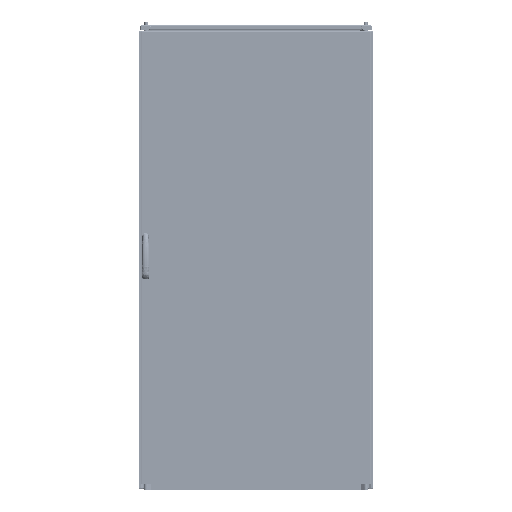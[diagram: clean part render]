
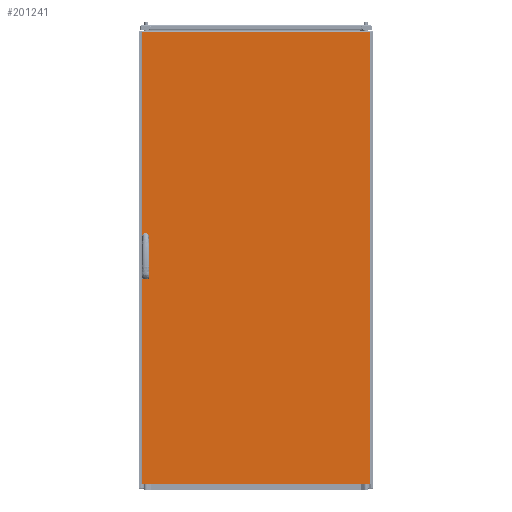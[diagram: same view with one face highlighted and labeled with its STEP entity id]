
A CAD part, top view. The second image highlights one B-rep face of the part: STEP entity #201241.
In plain terms, the highlighted planar face has unit normal (0, 0, 1).
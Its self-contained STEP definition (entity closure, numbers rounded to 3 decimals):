
#1612 = FACE_BOUND ( 'NONE', #200644, .T. ) ;
#4209 = CARTESIAN_POINT ( 'NONE',  ( 28.7, 947.75, 19. ) ) ;
#7296 = CARTESIAN_POINT ( 'NONE',  ( 9.7, 947.75, 19. ) ) ;
#11324 = EDGE_CURVE ( 'NONE', #109390, #80015, #261966, .T. ) ;
#13421 = EDGE_CURVE ( 'NONE', #243598, #170873, #272568, .T. ) ;
#20468 = ORIENTED_EDGE ( 'NONE', *, *, #289885, .F. ) ;
#23117 = LINE ( 'NONE', #149639, #42022 ) ;
#25180 = EDGE_LOOP ( 'NONE', ( #68979, #293675, #205023, #317691 ) ) ;
#25189 = CIRCLE ( 'NONE', #263102, 9.5 ) ;
#25877 = DIRECTION ( 'NONE',  ( 0., 0., -1. ) ) ;
#28552 = CIRCLE ( 'NONE', #327231, 9.5 ) ;
#35971 = VERTEX_POINT ( 'NONE', #72213 ) ;
#42022 = VECTOR ( 'NONE', #97668, 1000. ) ;
#59844 = VECTOR ( 'NONE', #126161, 1000. ) ;
#60789 = ORIENTED_EDGE ( 'NONE', *, *, #286555, .F. ) ;
#68979 = ORIENTED_EDGE ( 'NONE', *, *, #97079, .T. ) ;
#69067 = CARTESIAN_POINT ( 'NONE',  ( 0., 3., 19. ) ) ;
#71259 = DIRECTION ( 'NONE',  ( 0., 1., 0. ) ) ;
#72213 = CARTESIAN_POINT ( 'NONE',  ( 992., 1957., 19. ) ) ;
#76022 = VERTEX_POINT ( 'NONE', #150611 ) ;
#77213 = VERTEX_POINT ( 'NONE', #183626 ) ;
#78578 = EDGE_LOOP ( 'NONE', ( #271475, #295813, #20468, #80836 ) ) ;
#80015 = VERTEX_POINT ( 'NONE', #193172 ) ;
#80836 = ORIENTED_EDGE ( 'NONE', *, *, #252036, .F. ) ;
#84851 = AXIS2_PLACEMENT_3D ( 'NONE', #172610, #138066, #86094 ) ;
#85879 = DIRECTION ( 'NONE',  ( 1., 0., 0. ) ) ;
#86094 = DIRECTION ( 'NONE',  ( 1., 0., 0. ) ) ;
#97079 = EDGE_CURVE ( 'NONE', #77213, #35971, #208126, .T. ) ;
#97668 = DIRECTION ( 'NONE',  ( -1., 0., 0. ) ) ;
#102123 = FACE_BOUND ( 'NONE', #78578, .T. ) ;
#105540 = CARTESIAN_POINT ( 'NONE',  ( 9.7, 1060.25, 19. ) ) ;
#107724 = VERTEX_POINT ( 'NONE', #324578 ) ;
#108820 = EDGE_CURVE ( 'NONE', #76022, #325023, #167883, .T. ) ;
#108919 = DIRECTION ( 'NONE',  ( 0., 0., 1. ) ) ;
#109390 = VERTEX_POINT ( 'NONE', #278253 ) ;
#117833 = VECTOR ( 'NONE', #311723, 1000. ) ;
#122019 = DIRECTION ( 'NONE',  ( 0., 1., 0. ) ) ;
#126161 = DIRECTION ( 'NONE',  ( 1., 0., 0. ) ) ;
#130017 = CARTESIAN_POINT ( 'NONE',  ( 28.7, 1012.25, 19. ) ) ;
#134232 = DIRECTION ( 'NONE',  ( 0., 0., 1. ) ) ;
#136175 = CARTESIAN_POINT ( 'NONE',  ( 19.2, 899.75, 19. ) ) ;
#138066 = DIRECTION ( 'NONE',  ( 0., 0., 1. ) ) ;
#141899 = DIRECTION ( 'NONE',  ( 0., -1., 0. ) ) ;
#142318 = LINE ( 'NONE', #7296, #142458 ) ;
#142458 = VECTOR ( 'NONE', #247996, 1000. ) ;
#147069 = LINE ( 'NONE', #69067, #59844 ) ;
#149639 = CARTESIAN_POINT ( 'NONE',  ( 0., 1957., 19. ) ) ;
#150611 = CARTESIAN_POINT ( 'NONE',  ( 3., 1957., 19. ) ) ;
#159265 = LINE ( 'NONE', #105540, #117833 ) ;
#162562 = CARTESIAN_POINT ( 'NONE',  ( 28.7, 899.75, 19. ) ) ;
#167883 = LINE ( 'NONE', #296159, #216221 ) ;
#170873 = VERTEX_POINT ( 'NONE', #295487 ) ;
#172610 = CARTESIAN_POINT ( 'NONE',  ( 19.2, 1060.25, 19. ) ) ;
#173881 = ORIENTED_EDGE ( 'NONE', *, *, #306168, .F. ) ;
#175283 = CARTESIAN_POINT ( 'NONE',  ( 992., 1960., 19. ) ) ;
#183626 = CARTESIAN_POINT ( 'NONE',  ( 992., 3., 19. ) ) ;
#184991 = VERTEX_POINT ( 'NONE', #130017 ) ;
#187520 = CARTESIAN_POINT ( 'NONE',  ( 9.7, 899.75, 19. ) ) ;
#192511 = EDGE_CURVE ( 'NONE', #80015, #107724, #159265, .T. ) ;
#192929 = VECTOR ( 'NONE', #122019, 1000. ) ;
#192958 = DIRECTION ( 'NONE',  ( 0., 1., 0. ) ) ;
#193172 = CARTESIAN_POINT ( 'NONE',  ( 9.7, 1060.25, 19. ) ) ;
#200493 = EDGE_CURVE ( 'NONE', #305566, #243598, #220683, .T. ) ;
#200644 = EDGE_LOOP ( 'NONE', ( #60789, #173881, #305904, #296349 ) ) ;
#201241 = ADVANCED_FACE ( 'NONE', ( #1612, #102123, #237221 ), #289188, .F. ) ;
#203507 = LINE ( 'NONE', #224353, #192929 ) ;
#205023 = ORIENTED_EDGE ( 'NONE', *, *, #108820, .T. ) ;
#205538 = CARTESIAN_POINT ( 'NONE',  ( 9.7, 947.75, 19. ) ) ;
#208126 = LINE ( 'NONE', #175283, #251415 ) ;
#216221 = VECTOR ( 'NONE', #141899, 1000. ) ;
#216300 = DIRECTION ( 'NONE',  ( 1., 0., 0. ) ) ;
#220683 = CIRCLE ( 'NONE', #281485, 9.5 ) ;
#224353 = CARTESIAN_POINT ( 'NONE',  ( 28.7, 1060.25, 19. ) ) ;
#237221 = FACE_OUTER_BOUND ( 'NONE', #25180, .T. ) ;
#238229 = DIRECTION ( 'NONE',  ( 1., 0., 0. ) ) ;
#241187 = EDGE_CURVE ( 'NONE', #35971, #76022, #23117, .T. ) ;
#241879 = DIRECTION ( 'NONE',  ( 0., 0., 1. ) ) ;
#243598 = VERTEX_POINT ( 'NONE', #162562 ) ;
#247996 = DIRECTION ( 'NONE',  ( 0., -1., 0. ) ) ;
#251415 = VECTOR ( 'NONE', #71259, 1000. ) ;
#252036 = EDGE_CURVE ( 'NONE', #107724, #184991, #25189, .T. ) ;
#261966 = CIRCLE ( 'NONE', #84851, 9.5 ) ;
#262555 = CARTESIAN_POINT ( 'NONE',  ( 19.2, 947.75, 19. ) ) ;
#263102 = AXIS2_PLACEMENT_3D ( 'NONE', #269982, #108919, #216300 ) ;
#263240 = CARTESIAN_POINT ( 'NONE',  ( 0., 1960., 19. ) ) ;
#269982 = CARTESIAN_POINT ( 'NONE',  ( 19.2, 1012.25, 19. ) ) ;
#271475 = ORIENTED_EDGE ( 'NONE', *, *, #192511, .F. ) ;
#272568 = LINE ( 'NONE', #4209, #296082 ) ;
#278253 = CARTESIAN_POINT ( 'NONE',  ( 28.7, 1060.25, 19. ) ) ;
#279777 = EDGE_CURVE ( 'NONE', #325023, #77213, #147069, .T. ) ;
#281485 = AXIS2_PLACEMENT_3D ( 'NONE', #136175, #241879, #85879 ) ;
#286555 = EDGE_CURVE ( 'NONE', #318132, #305566, #142318, .T. ) ;
#289188 = PLANE ( 'NONE',  #315081 ) ;
#289885 = EDGE_CURVE ( 'NONE', #184991, #109390, #203507, .T. ) ;
#292612 = DIRECTION ( 'NONE',  ( -1., 0., 0. ) ) ;
#293675 = ORIENTED_EDGE ( 'NONE', *, *, #241187, .T. ) ;
#295487 = CARTESIAN_POINT ( 'NONE',  ( 28.7, 947.75, 19. ) ) ;
#295813 = ORIENTED_EDGE ( 'NONE', *, *, #11324, .F. ) ;
#296082 = VECTOR ( 'NONE', #192958, 1000. ) ;
#296159 = CARTESIAN_POINT ( 'NONE',  ( 3., 1960., 19. ) ) ;
#296349 = ORIENTED_EDGE ( 'NONE', *, *, #200493, .F. ) ;
#298010 = CARTESIAN_POINT ( 'NONE',  ( 3., 3., 19. ) ) ;
#305566 = VERTEX_POINT ( 'NONE', #187520 ) ;
#305904 = ORIENTED_EDGE ( 'NONE', *, *, #13421, .F. ) ;
#306168 = EDGE_CURVE ( 'NONE', #170873, #318132, #28552, .T. ) ;
#311723 = DIRECTION ( 'NONE',  ( 0., -1., 0. ) ) ;
#315081 = AXIS2_PLACEMENT_3D ( 'NONE', #263240, #25877, #292612 ) ;
#317691 = ORIENTED_EDGE ( 'NONE', *, *, #279777, .T. ) ;
#318132 = VERTEX_POINT ( 'NONE', #205538 ) ;
#324578 = CARTESIAN_POINT ( 'NONE',  ( 9.7, 1012.25, 19. ) ) ;
#325023 = VERTEX_POINT ( 'NONE', #298010 ) ;
#327231 = AXIS2_PLACEMENT_3D ( 'NONE', #262555, #134232, #238229 ) ;
